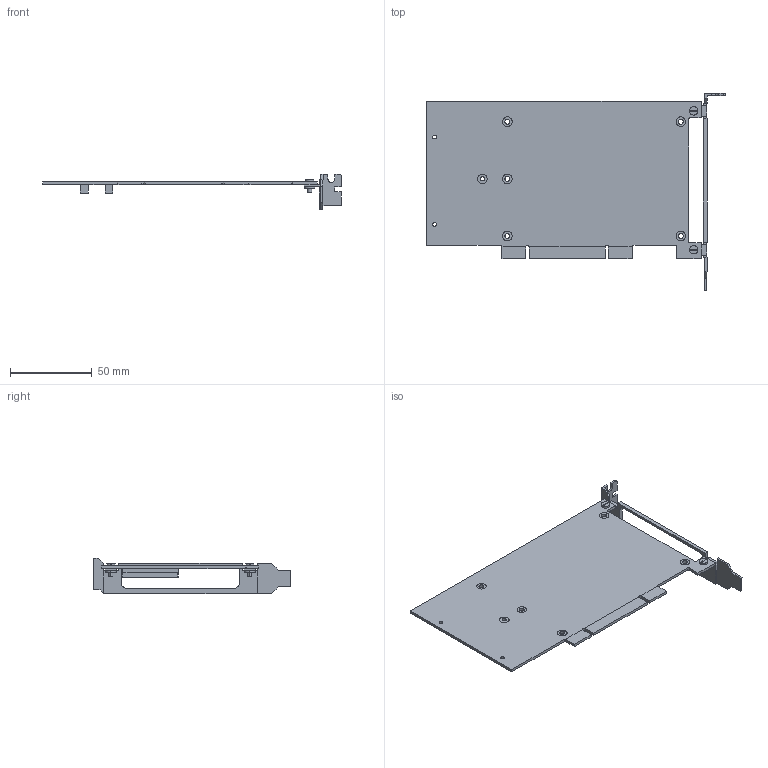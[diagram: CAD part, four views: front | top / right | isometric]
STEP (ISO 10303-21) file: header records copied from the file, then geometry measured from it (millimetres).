
FILE_DESCRIPTION (( 'STEP AP214' ), '1' );
FILE_NAME ('PCI32-PMC-0-X.STEP', '2022-06-07T23:57:40', ( '' ), ( '' ), 'SwSTEP 2.0', 'SolidWorks 2021', '' );
FILE_SCHEMA (( 'AUTOMOTIVE_DESIGN' ));
Length unit declared in the file: inch
Products named in the file (1): PCI32-PMC-0-X
Bounding box: 182.38 x 120.4 x 21.59 mm (x, y, z)
Volume: 29375.5 mm3; surface area: 37216.9 mm2
Topology: 6 solids, 6 shells, 182 faces, 467 edges, 317 vertices
Faces by surface type: plane 138, cylinder 44
Entity records: 8052 total; most frequent: CARTESIAN_POINT 967, DIRECTION 961, ORIENTED_EDGE 934, EDGE_CURVE 467, VECTOR 339, LINE 339, VERTEX_POINT 317, AXIS2_PLACEMENT_3D 311
